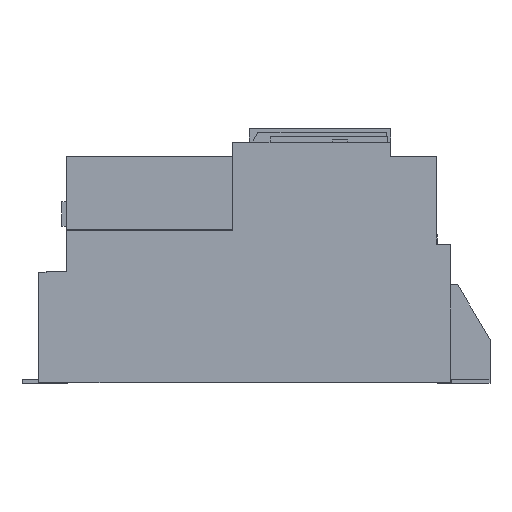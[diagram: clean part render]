
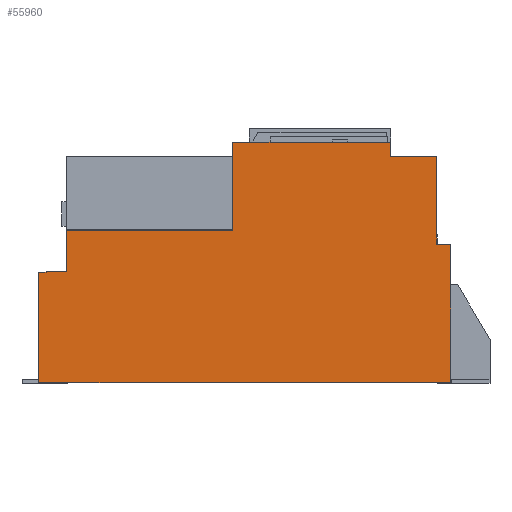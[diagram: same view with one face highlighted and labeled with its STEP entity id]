
A CAD part, left-side view. The second image highlights one B-rep face of the part: STEP entity #55960.
In plain terms, the highlighted planar face has unit normal (-1, 0, 0).
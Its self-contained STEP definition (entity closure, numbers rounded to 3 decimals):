
#15436=DIRECTION('',(0.,1.,0.));
#15437=VECTOR('',#15436,33.98);
#15438=CARTESIAN_POINT('',(0.,38.7,165.7));
#15439=LINE('',#15438,#15437);
#15443=DIRECTION('',(0.,0.,1.));
#15444=VECTOR('',#15443,64.101);
#15445=CARTESIAN_POINT('',(0.,38.7,101.599));
#15446=LINE('',#15445,#15444);
#15450=DIRECTION('',(0.,0.999,0.035));
#15451=VECTOR('',#15450,10.006);
#15452=CARTESIAN_POINT('',(0.,28.7,101.25));
#15453=LINE('',#15452,#15451);
#15457=DIRECTION('',(0.,0.,1.));
#15458=VECTOR('',#15457,100.55);
#15459=CARTESIAN_POINT('',(0.,28.7,0.7));
#15460=LINE('',#15459,#15458);
#15464=DIRECTION('',(0.,-1.,0.));
#15465=VECTOR('',#15464,300.);
#15466=CARTESIAN_POINT('',(0.,328.7,0.7));
#15467=LINE('',#15466,#15465);
#15471=DIRECTION('',(0.,0.,-1.));
#15472=VECTOR('',#15471,80.35);
#15473=CARTESIAN_POINT('',(0.,328.7,81.05));
#15474=LINE('',#15473,#15472);
#15478=DIRECTION('',(0.,0.999,-0.035));
#15479=VECTOR('',#15478,20.018);
#15480=CARTESIAN_POINT('',(0.,308.694,81.749));
#15481=LINE('',#15480,#15479);
#15485=DIRECTION('',(0.,0.,-1.));
#15486=VECTOR('',#15485,29.951);
#15487=CARTESIAN_POINT('',(0.,308.694,111.7));
#15488=LINE('',#15487,#15486);
#15492=DIRECTION('',(0.,-1.,0.));
#15493=VECTOR('',#15492,121.194);
#15494=CARTESIAN_POINT('',(0.,308.694,111.7));
#15495=LINE('',#15494,#15493);
#15499=DIRECTION('',(0.,0.018,-1.));
#15500=VECTOR('',#15499,10.002);
#15501=CARTESIAN_POINT('',(0.,187.319,175.7));
#15502=LINE('',#15501,#15500);
#15506=DIRECTION('',(0.,0.,-1.));
#15507=VECTOR('',#15506,10.);
#15508=CARTESIAN_POINT('',(0.,72.68,175.7));
#15509=LINE('',#15508,#15507);
#16087=DIRECTION('',(0.,1.,0.));
#16088=VECTOR('',#16087,114.639);
#16089=CARTESIAN_POINT('',(0.,72.68,175.7));
#16090=LINE('',#16089,#16088);
#17365=DIRECTION('',(0.,0.,-1.));
#17366=VECTOR('',#17365,54.);
#17367=CARTESIAN_POINT('',(0.,187.497,165.7));
#17368=LINE('',#17367,#17366);
#35131=CARTESIAN_POINT('',(0.,328.7,81.05));
#35132=CARTESIAN_POINT('',(0.,328.7,0.7));
#35133=VERTEX_POINT('',#35131);
#35134=VERTEX_POINT('',#35132);
#35135=CARTESIAN_POINT('',(0.,28.7,0.7));
#35136=VERTEX_POINT('',#35135);
#35137=CARTESIAN_POINT('',(0.,28.7,101.25));
#35138=VERTEX_POINT('',#35137);
#35139=CARTESIAN_POINT('',(0.,38.7,101.599));
#35140=VERTEX_POINT('',#35139);
#35141=CARTESIAN_POINT('',(0.,308.694,81.749));
#35142=VERTEX_POINT('',#35141);
#35175=CARTESIAN_POINT('',(0.,187.497,165.7));
#35177=VERTEX_POINT('',#35175);
#35183=CARTESIAN_POINT('',(0.,187.319,175.7));
#35184=VERTEX_POINT('',#35183);
#35187=CARTESIAN_POINT('',(0.,308.694,111.7));
#35188=CARTESIAN_POINT('',(0.,187.5,111.7));
#35189=VERTEX_POINT('',#35187);
#35190=VERTEX_POINT('',#35188);
#35193=CARTESIAN_POINT('',(0.,38.7,165.7));
#35194=CARTESIAN_POINT('',(0.,72.68,165.7));
#35195=VERTEX_POINT('',#35193);
#35196=VERTEX_POINT('',#35194);
#35261=CARTESIAN_POINT('',(0.,72.68,175.7));
#35262=VERTEX_POINT('',#35261);
#55933=CARTESIAN_POINT('',(0.,0.,0.));
#55934=DIRECTION('',(-1.,0.,0.));
#55935=DIRECTION('',(0.,0.,1.));
#55936=AXIS2_PLACEMENT_3D('',#55933,#55934,#55935);
#55937=PLANE('',#55936);
#55939=ORIENTED_EDGE('',*,*,#55938,.F.);
#55940=ORIENTED_EDGE('',*,*,#42711,.F.);
#55942=ORIENTED_EDGE('',*,*,#55941,.F.);
#55943=ORIENTED_EDGE('',*,*,#43430,.F.);
#55944=ORIENTED_EDGE('',*,*,#43706,.F.);
#55945=ORIENTED_EDGE('',*,*,#53949,.F.);
#55946=ORIENTED_EDGE('',*,*,#53887,.F.);
#55947=ORIENTED_EDGE('',*,*,#53143,.F.);
#55949=ORIENTED_EDGE('',*,*,#55948,.T.);
#55951=ORIENTED_EDGE('',*,*,#55950,.F.);
#55953=ORIENTED_EDGE('',*,*,#55952,.F.);
#55955=ORIENTED_EDGE('',*,*,#55954,.F.);
#55957=ORIENTED_EDGE('',*,*,#55956,.T.);
#55958=EDGE_LOOP('',(#55939,#55940,#55942,#55943,#55944,#55945,#55946,#55947,
#55949,#55951,#55953,#55955,#55957));
#55959=FACE_OUTER_BOUND('',#55958,.F.);
#42711=EDGE_CURVE('',#35140,#35195,#15446,.T.);
#43430=EDGE_CURVE('',#35136,#35138,#15460,.T.);
#43706=EDGE_CURVE('',#35134,#35136,#15467,.T.);
#53143=EDGE_CURVE('',#35189,#35142,#15488,.T.);
#53887=EDGE_CURVE('',#35142,#35133,#15481,.T.);
#53949=EDGE_CURVE('',#35133,#35134,#15474,.T.);
#55938=EDGE_CURVE('',#35195,#35196,#15439,.T.);
#55941=EDGE_CURVE('',#35138,#35140,#15453,.T.);
#55948=EDGE_CURVE('',#35189,#35190,#15495,.T.);
#55950=EDGE_CURVE('',#35177,#35190,#17368,.T.);
#55952=EDGE_CURVE('',#35184,#35177,#15502,.T.);
#55954=EDGE_CURVE('',#35262,#35184,#16090,.T.);
#55956=EDGE_CURVE('',#35262,#35196,#15509,.T.);
#55960=ADVANCED_FACE('',(#55959),#55937,.T.);
